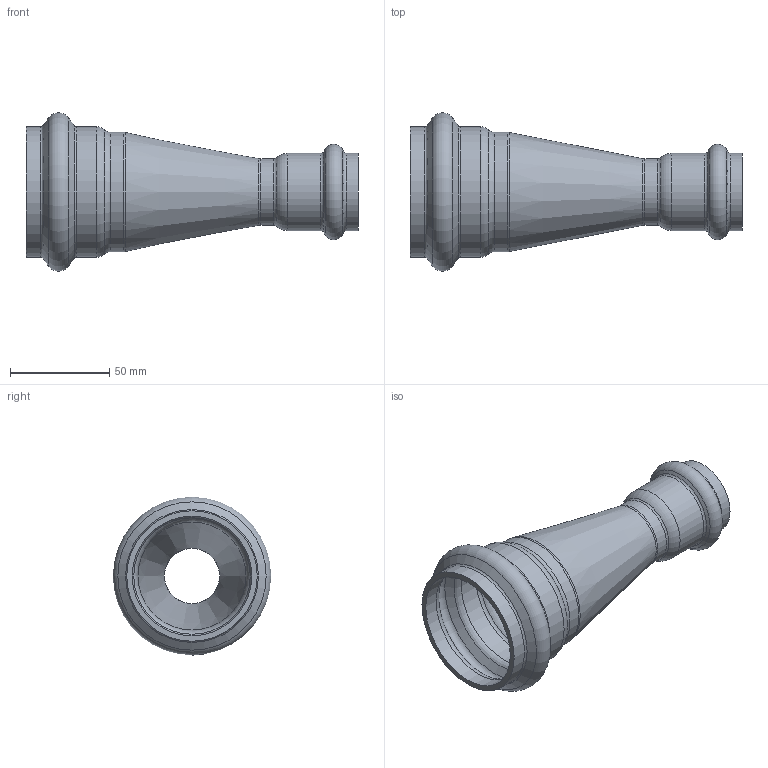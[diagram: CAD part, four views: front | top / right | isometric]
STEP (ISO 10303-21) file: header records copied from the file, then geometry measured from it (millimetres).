
FILE_DESCRIPTION(/* description */ ('VIC REDUCER CONC. STYLE P594 (P X P)','CAx-IF Rec.Pracs.---Representation and Presentation of Product Manufacturing Information (PMI)---4.0---2014-10-13'),/* implementation_level */ '2;1');
FILE_NAME(/* name */ 'C:\Users\Vjadhav\AppData\Roaming\Autodesk\ApplicationPlugins\Back Up\Victaulic_SS-Vic-Press-TP 304_Reducer Concentric_Style P594 (VP)\Victaulic_SS-Vic-Press-TP 304_Reducer Concentric_Style P594 (VP)_02.0x01.0 (50x25).stp',/* time_stamp */ '2020-08-12T18:15:02+06:00',/* author */ ('cgray'),/* organization */ ('Victaulic'),/* preprocessor_version */ 'ST-DEVELOPER v17.2',/* originating_system */ 'Autodesk Inventor 2019',/* authorisation */ '');
FILE_SCHEMA (('AP242_MANAGED_MODEL_BASED_3D_ENGINEERING_MIM_LF { 1 0 10303 442 1 1 4 }'));
Length unit declared in the file: inch
Products named in the file (1): P594-02.0x01.0
Bounding box: 167.64 x 79.89 x 79.89 mm (x, y, z)
Volume: 75405.5 mm3; surface area: 55696 mm2
Topology: 1 solids, 1 shells, 48 faces, 182 edges, 136 vertices
Faces by surface type: torus 24, cylinder 12, cone 10, plane 2
Full cylindrical faces by diameter (mm): 27.864 x1, 33.401 x3, 38.938 x2, 54.788 x1, 60.325 x3, 65.862 x2
Entity records: 2282 total; most frequent: DIRECTION 466, CARTESIAN_POINT 384, ORIENTED_EDGE 364, AXIS2_PLACEMENT_3D 222, EDGE_CURVE 182, CIRCLE 160, VERTEX_POINT 136, EDGE_LOOP 50
